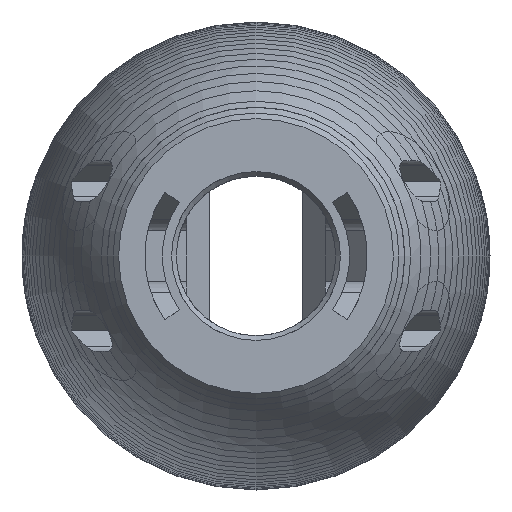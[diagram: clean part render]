
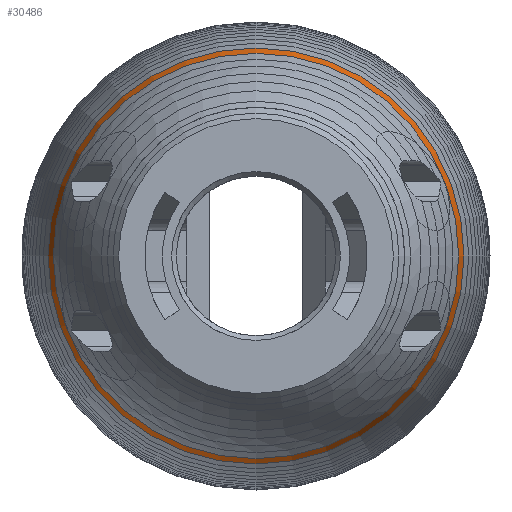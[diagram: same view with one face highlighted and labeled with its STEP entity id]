
A CAD part, left-side view. The second image highlights one B-rep face of the part: STEP entity #30486.
In plain terms, the highlighted conical face has half-angle 18.008 degrees and reference radius 21.651 mm.
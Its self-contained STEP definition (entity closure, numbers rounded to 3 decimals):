
#3591 = CONICAL_SURFACE('',#3592,21.015,0.348);
#3592 = AXIS2_PLACEMENT_3D('',#3593,#3594,#3595);
#3593 = CARTESIAN_POINT('',(19.25,0.,0.));
#3594 = DIRECTION('',(1.,0.,0.));
#3595 = DIRECTION('',(-0.,1.,0.));
#4205 = VERTEX_POINT('',#4206);
#4206 = CARTESIAN_POINT('',(21.,21.651,0.));
#4227 = EDGE_CURVE('',#4205,#4205,#4228,.T.);
#4228 = SURFACE_CURVE('',#4229,(#4234,#4241),.PCURVE_S1.);
#4229 = CIRCLE('',#4230,21.651);
#4230 = AXIS2_PLACEMENT_3D('',#4231,#4232,#4233);
#4231 = CARTESIAN_POINT('',(21.,0.,0.));
#4232 = DIRECTION('',(1.,0.,0.));
#4233 = DIRECTION('',(-0.,1.,0.));
#4234 = PCURVE('',#3591,#4235);
#4235 = DEFINITIONAL_REPRESENTATION('',(#4236),#4240);
#4236 = LINE('',#4237,#4238);
#4237 = CARTESIAN_POINT('',(0.,1.75));
#4238 = VECTOR('',#4239,1.);
#4239 = DIRECTION('',(1.,0.));
#4240 = ( GEOMETRIC_REPRESENTATION_CONTEXT(2) 
PARAMETRIC_REPRESENTATION_CONTEXT() REPRESENTATION_CONTEXT('2D SPACE',''
  ) );
#4241 = PCURVE('',#4242,#4247);
#4242 = CONICAL_SURFACE('',#4243,21.651,0.314);
#4243 = AXIS2_PLACEMENT_3D('',#4244,#4245,#4246);
#4244 = CARTESIAN_POINT('',(21.,0.,0.));
#4245 = DIRECTION('',(1.,0.,0.));
#4246 = DIRECTION('',(-0.,1.,0.));
#4247 = DEFINITIONAL_REPRESENTATION('',(#4248),#4252);
#4248 = LINE('',#4249,#4250);
#4249 = CARTESIAN_POINT('',(0.,0.));
#4250 = VECTOR('',#4251,1.);
#4251 = DIRECTION('',(1.,0.));
#4252 = ( GEOMETRIC_REPRESENTATION_CONTEXT(2) 
PARAMETRIC_REPRESENTATION_CONTEXT() REPRESENTATION_CONTEXT('2D SPACE',''
  ) );
#17364 = CONICAL_SURFACE('',#17365,22.22,0.282);
#17365 = AXIS2_PLACEMENT_3D('',#17366,#17367,#17368);
#17366 = CARTESIAN_POINT('',(22.75,0.,0.));
#17367 = DIRECTION('',(1.,0.,0.));
#17368 = DIRECTION('',(-0.,1.,0.));
#17382 = VERTEX_POINT('',#17383);
#17383 = CARTESIAN_POINT('',(22.75,22.22,0.));
#17404 = EDGE_CURVE('',#17382,#17382,#17405,.T.);
#17405 = SURFACE_CURVE('',#17406,(#17411,#17418),.PCURVE_S1.);
#17406 = CIRCLE('',#17407,22.22);
#17407 = AXIS2_PLACEMENT_3D('',#17408,#17409,#17410);
#17408 = CARTESIAN_POINT('',(22.75,0.,0.)
  );
#17409 = DIRECTION('',(-1.,0.,0.));
#17410 = DIRECTION('',(0.,1.,0.));
#17411 = PCURVE('',#17364,#17412);
#17412 = DEFINITIONAL_REPRESENTATION('',(#17413),#17417);
#17413 = LINE('',#17414,#17415);
#17414 = CARTESIAN_POINT('',(6.283,0.));
#17415 = VECTOR('',#17416,1.);
#17416 = DIRECTION('',(-1.,-0.));
#17417 = ( GEOMETRIC_REPRESENTATION_CONTEXT(2) 
PARAMETRIC_REPRESENTATION_CONTEXT() REPRESENTATION_CONTEXT('2D SPACE',''
  ) );
#17418 = PCURVE('',#4242,#17419);
#17419 = DEFINITIONAL_REPRESENTATION('',(#17420),#17424);
#17420 = LINE('',#17421,#17422);
#17421 = CARTESIAN_POINT('',(6.283,1.75));
#17422 = VECTOR('',#17423,1.);
#17423 = DIRECTION('',(-1.,-0.));
#17424 = ( GEOMETRIC_REPRESENTATION_CONTEXT(2) 
PARAMETRIC_REPRESENTATION_CONTEXT() REPRESENTATION_CONTEXT('2D SPACE',''
  ) );
#30486 = ADVANCED_FACE('',(#30487),#4242,.T.);
#30487 = FACE_BOUND('',#30488,.T.);
#30488 = EDGE_LOOP('',(#30489,#30490,#30511,#30512));
#30489 = ORIENTED_EDGE('',*,*,#4227,.T.);
#30490 = ORIENTED_EDGE('',*,*,#30491,.T.);
#30491 = EDGE_CURVE('',#4205,#17382,#30492,.T.);
#30492 = SEAM_CURVE('',#30493,(#30497,#30504),.PCURVE_S1.);
#30493 = LINE('',#30494,#30495);
#30494 = CARTESIAN_POINT('',(21.,21.651,0.));
#30495 = VECTOR('',#30496,1.);
#30496 = DIRECTION('',(0.951,0.309,0.));
#30497 = PCURVE('',#4242,#30498);
#30498 = DEFINITIONAL_REPRESENTATION('',(#30499),#30503);
#30499 = LINE('',#30500,#30501);
#30500 = CARTESIAN_POINT('',(6.283,0.));
#30501 = VECTOR('',#30502,1.);
#30502 = DIRECTION('',(0.,1.));
#30503 = ( GEOMETRIC_REPRESENTATION_CONTEXT(2) 
PARAMETRIC_REPRESENTATION_CONTEXT() REPRESENTATION_CONTEXT('2D SPACE',''
  ) );
#30504 = PCURVE('',#4242,#30505);
#30505 = DEFINITIONAL_REPRESENTATION('',(#30506),#30510);
#30506 = LINE('',#30507,#30508);
#30507 = CARTESIAN_POINT('',(0.,0.));
#30508 = VECTOR('',#30509,1.);
#30509 = DIRECTION('',(0.,1.));
#30510 = ( GEOMETRIC_REPRESENTATION_CONTEXT(2) 
PARAMETRIC_REPRESENTATION_CONTEXT() REPRESENTATION_CONTEXT('2D SPACE',''
  ) );
#30511 = ORIENTED_EDGE('',*,*,#17404,.T.);
#30512 = ORIENTED_EDGE('',*,*,#30491,.F.);
